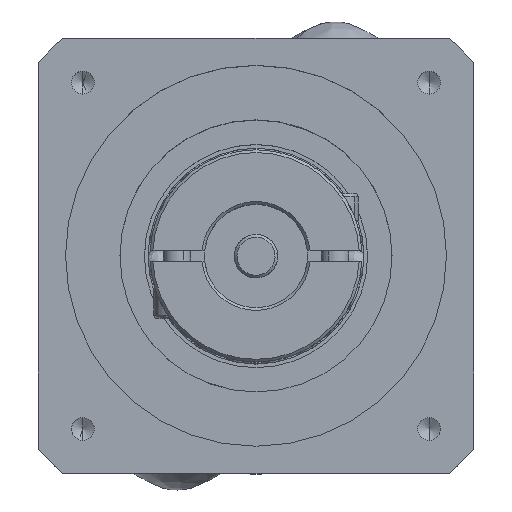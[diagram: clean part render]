
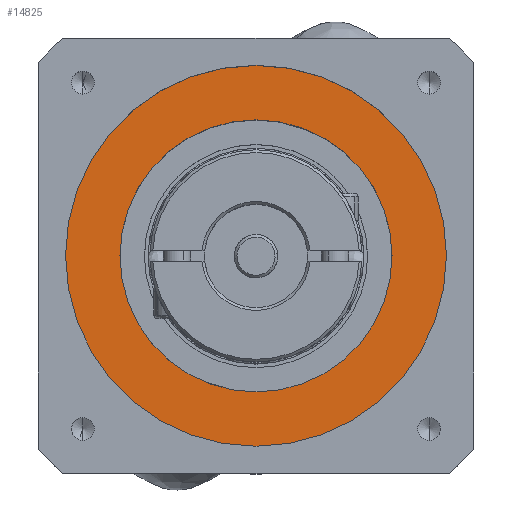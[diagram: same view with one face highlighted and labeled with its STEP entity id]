
A CAD part, top view. The second image highlights one B-rep face of the part: STEP entity #14825.
In plain terms, the highlighted planar face has unit normal (0, 0, 1).
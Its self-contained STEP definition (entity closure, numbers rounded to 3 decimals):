
#957 = VERTEX_POINT ( 'NONE', #18893 ) ;
#983 = FACE_BOUND ( 'NONE', #19247, .T. ) ;
#1463 = EDGE_CURVE ( 'NONE', #22809, #4708, #15462, .T. ) ;
#1845 = DIRECTION ( 'NONE',  ( 0., 0., 1. ) ) ;
#2640 = DIRECTION ( 'NONE',  ( 0., 0., 1. ) ) ;
#3504 = ORIENTED_EDGE ( 'NONE', *, *, #19111, .T. ) ;
#4669 = AXIS2_PLACEMENT_3D ( 'NONE', #11447, #26166, #13607 ) ;
#4708 = VERTEX_POINT ( 'NONE', #22869 ) ;
#5143 = CARTESIAN_POINT ( 'NONE',  ( -35., 0., 34.5 ) ) ;
#7366 = EDGE_LOOP ( 'NONE', ( #3504, #27435 ) ) ;
#7554 = CARTESIAN_POINT ( 'NONE',  ( 0., 0., 34.5 ) ) ;
#7886 = CARTESIAN_POINT ( 'NONE',  ( 0., 0., 34.5 ) ) ;
#7917 = DIRECTION ( 'NONE',  ( 0., 0., 1. ) ) ;
#7953 = DIRECTION ( 'NONE',  ( 1., 0., 0. ) ) ;
#8248 = VERTEX_POINT ( 'NONE', #11468 ) ;
#9700 = DIRECTION ( 'NONE',  ( 1., 0., 0. ) ) ;
#10606 = AXIS2_PLACEMENT_3D ( 'NONE', #7554, #22370, #9700 ) ;
#11447 = CARTESIAN_POINT ( 'NONE',  ( 0., 0., 34.5 ) ) ;
#11460 = EDGE_CURVE ( 'NONE', #957, #8248, #18143, .T. ) ;
#11468 = CARTESIAN_POINT ( 'NONE',  ( 25., 0., 34.5 ) ) ;
#13607 = DIRECTION ( 'NONE',  ( 1., 0., 0. ) ) ;
#13704 = CIRCLE ( 'NONE', #17562, 35. ) ;
#14664 = CARTESIAN_POINT ( 'NONE',  ( 0., 0., 34.5 ) ) ;
#14825 = ADVANCED_FACE ( 'NONE', ( #17367, #983 ), #23017, .T. ) ;
#14992 = ORIENTED_EDGE ( 'NONE', *, *, #18119, .F. ) ;
#15429 = CARTESIAN_POINT ( 'NONE',  ( 0., 0., 34.5 ) ) ;
#15462 = CIRCLE ( 'NONE', #17283, 35. ) ;
#16771 = DIRECTION ( 'NONE',  ( 1., 0., 0. ) ) ;
#16902 = ORIENTED_EDGE ( 'NONE', *, *, #11460, .F. ) ;
#17283 = AXIS2_PLACEMENT_3D ( 'NONE', #7886, #7917, #7953 ) ;
#17367 = FACE_OUTER_BOUND ( 'NONE', #7366, .T. ) ;
#17551 = DIRECTION ( 'NONE',  ( 1., 0., 0. ) ) ;
#17562 = AXIS2_PLACEMENT_3D ( 'NONE', #15429, #2640, #17551 ) ;
#18119 = EDGE_CURVE ( 'NONE', #8248, #957, #27517, .T. ) ;
#18143 = CIRCLE ( 'NONE', #4669, 25. ) ;
#18893 = CARTESIAN_POINT ( 'NONE',  ( -25., 0., 34.5 ) ) ;
#19111 = EDGE_CURVE ( 'NONE', #4708, #22809, #13704, .T. ) ;
#19247 = EDGE_LOOP ( 'NONE', ( #14992, #16902 ) ) ;
#22370 = DIRECTION ( 'NONE',  ( 0., 0., 1. ) ) ;
#22809 = VERTEX_POINT ( 'NONE', #5143 ) ;
#22869 = CARTESIAN_POINT ( 'NONE',  ( 35., 0., 34.5 ) ) ;
#23017 = PLANE ( 'NONE',  #25553 ) ;
#25553 = AXIS2_PLACEMENT_3D ( 'NONE', #14664, #1845, #16771 ) ;
#26166 = DIRECTION ( 'NONE',  ( 0., 0., 1. ) ) ;
#27435 = ORIENTED_EDGE ( 'NONE', *, *, #1463, .T. ) ;
#27517 = CIRCLE ( 'NONE', #10606, 25. ) ;
